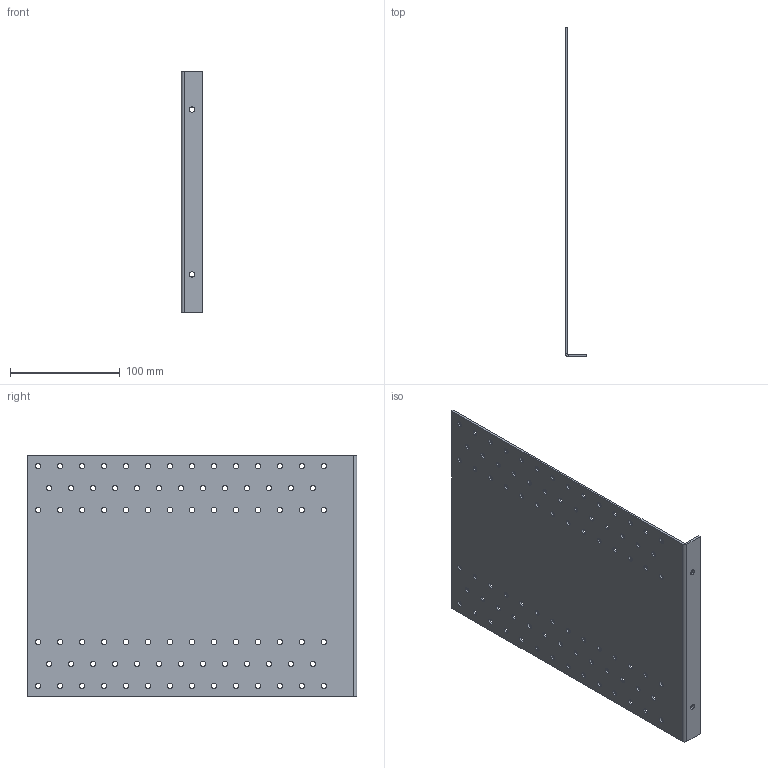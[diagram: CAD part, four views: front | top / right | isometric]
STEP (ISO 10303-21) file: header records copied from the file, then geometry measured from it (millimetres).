
FILE_DESCRIPTION (( 'STEP AP203' ), '1' );
FILE_NAME ('230.STEP', '2020-04-17T13:05:14', ( '' ), ( '' ), 'SwSTEP 2.0', 'SolidWorks 2013', '' );
FILE_SCHEMA (( 'CONFIG_CONTROL_DESIGN' ));
Length unit declared in the file: millimetre
Products named in the file (1): 230
Bounding box: 20 x 300 x 220 mm (x, y, z)
Volume: 136294.2 mm3; surface area: 141082.2 mm2
Topology: 1 solids, 1 shells, 182 faces, 532 edges, 352 vertices
Faces by surface type: cylinder 170, plane 12
Entity records: 6645 total; most frequent: DIRECTION 1238, CARTESIAN_POINT 1067, ORIENTED_EDGE 1064, EDGE_CURVE 532, AXIS2_PLACEMENT_3D 523, VERTEX_POINT 352, EDGE_LOOP 350, CIRCLE 340
